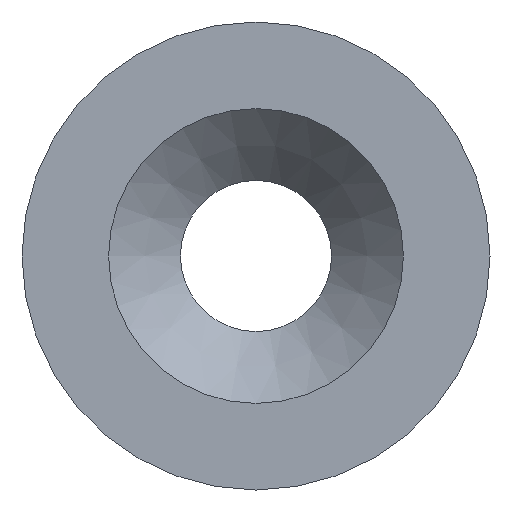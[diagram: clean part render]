
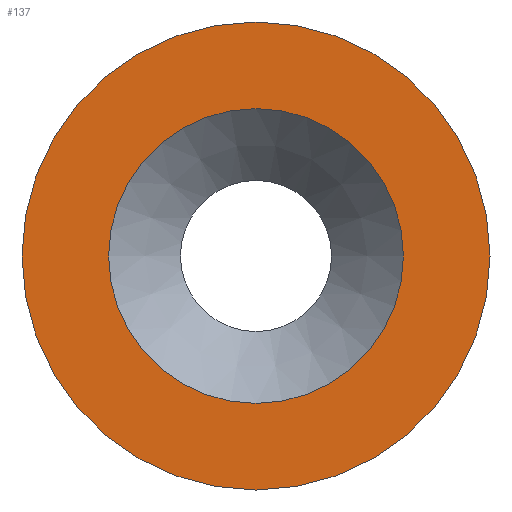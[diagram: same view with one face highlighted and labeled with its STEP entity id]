
A CAD part, front view. The second image highlights one B-rep face of the part: STEP entity #137.
In plain terms, the highlighted planar face has unit normal (0, -1, 0).
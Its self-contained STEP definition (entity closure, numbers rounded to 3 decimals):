
#15=FACE_BOUND('',#36,.T.);
#18=PLANE('',#170);
#27=FACE_OUTER_BOUND('',#35,.T.);
#35=EDGE_LOOP('',(#108));
#36=EDGE_LOOP('',(#109,#110));
#59=CIRCLE('',#171,6.35);
#60=CIRCLE('',#172,4.);
#61=CIRCLE('',#173,4.);
#72=VERTEX_POINT('',#249);
#73=VERTEX_POINT('',#251);
#74=VERTEX_POINT('',#252);
#87=EDGE_CURVE('',#72,#72,#59,.T.);
#88=EDGE_CURVE('',#73,#74,#60,.T.);
#89=EDGE_CURVE('',#74,#73,#61,.T.);
#108=ORIENTED_EDGE('',*,*,#87,.T.);
#109=ORIENTED_EDGE('',*,*,#88,.T.);
#110=ORIENTED_EDGE('',*,*,#89,.T.);
#137=ADVANCED_FACE('',(#27,#15),#18,.T.);
#170=AXIS2_PLACEMENT_3D('',#248,#202,#203);
#171=AXIS2_PLACEMENT_3D('',#250,#204,#205);
#172=AXIS2_PLACEMENT_3D('',#253,#206,#207);
#173=AXIS2_PLACEMENT_3D('',#254,#208,#209);
#202=DIRECTION('center_axis',(0.,-1.,0.));
#203=DIRECTION('ref_axis',(0.,0.,-1.));
#204=DIRECTION('center_axis',(0.,-1.,0.));
#205=DIRECTION('ref_axis',(1.,0.,0.));
#206=DIRECTION('center_axis',(0.,1.,0.));
#207=DIRECTION('ref_axis',(-1.,0.,0.));
#208=DIRECTION('center_axis',(0.,1.,0.));
#209=DIRECTION('ref_axis',(-1.,0.,0.));
#248=CARTESIAN_POINT('Origin',(0.,-17.54,0.));
#249=CARTESIAN_POINT('',(6.35,-17.54,0.));
#250=CARTESIAN_POINT('Origin',(0.,-17.54,0.));
#251=CARTESIAN_POINT('',(4.,-17.54,0.));
#252=CARTESIAN_POINT('',(-4.,-17.54,0.));
#253=CARTESIAN_POINT('Origin',(0.,-17.54,0.));
#254=CARTESIAN_POINT('Origin',(0.,-17.54,0.));
